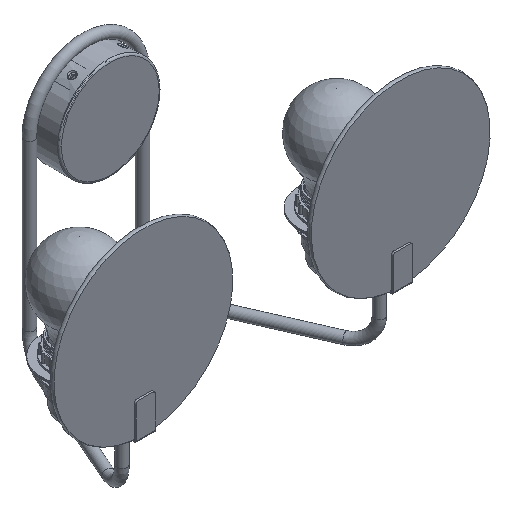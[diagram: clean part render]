
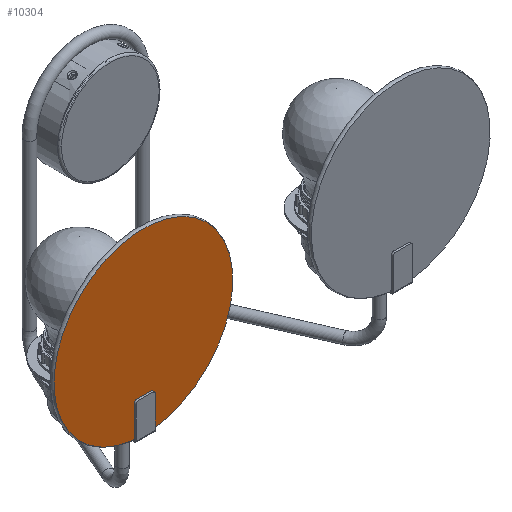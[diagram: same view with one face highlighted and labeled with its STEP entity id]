
A CAD part, isometric view. The second image highlights one B-rep face of the part: STEP entity #10304.
In plain terms, the highlighted planar face has unit normal (0, -1, 0).
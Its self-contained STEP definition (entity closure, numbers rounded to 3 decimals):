
#562=PLANE('',#11127);
#1024=LINE('',#20234,#1548);
#1548=VECTOR('',#13093,1000.);
#3302=ORIENTED_EDGE('',*,*,#4567,.F.);
#3303=ORIENTED_EDGE('',*,*,#4568,.T.);
#3304=ORIENTED_EDGE('',*,*,#4569,.T.);
#4567=EDGE_CURVE('',#5350,#5350,#5772,.T.);
#4568=EDGE_CURVE('',#5351,#5352,#5773,.T.);
#4569=EDGE_CURVE('',#5352,#5351,#1024,.T.);
#5350=VERTEX_POINT('',#20230);
#5351=VERTEX_POINT('',#20232);
#5352=VERTEX_POINT('',#20233);
#5772=CIRCLE('',#11128,5.5);
#5773=CIRCLE('',#11129,69.5);
#6358=EDGE_LOOP('',(#3302));
#6359=EDGE_LOOP('',(#3303,#3304));
#6957=FACE_BOUND('',#6358,.T.);
#6958=FACE_BOUND('',#6359,.T.);
#10304=ADVANCED_FACE('',(#6957,#6958),#562,.F.);
#11127=AXIS2_PLACEMENT_3D('',#20228,#13087,#13088);
#11128=AXIS2_PLACEMENT_3D('',#20229,#13089,#13090);
#11129=AXIS2_PLACEMENT_3D('',#20231,#13091,#13092);
#13087=DIRECTION('',(0.,1.,0.));
#13088=DIRECTION('',(0.,0.,1.));
#13089=DIRECTION('',(0.,-1.,0.));
#13090=DIRECTION('',(1.,0.,0.));
#13091=DIRECTION('',(0.,-1.,0.));
#13092=DIRECTION('',(1.,0.,0.));
#13093=DIRECTION('',(1.,0.,0.));
#20228=CARTESIAN_POINT('',(0.,-3.,0.));
#20229=CARTESIAN_POINT('',(0.,-3.,-55.));
#20230=CARTESIAN_POINT('',(5.5,-3.,-55.));
#20231=CARTESIAN_POINT('',(0.,-3.,0.));
#20232=CARTESIAN_POINT('',(8.322,-3.,-69.));
#20233=CARTESIAN_POINT('',(-8.322,-3.,-69.));
#20234=CARTESIAN_POINT('',(-20.,-3.,-69.));
